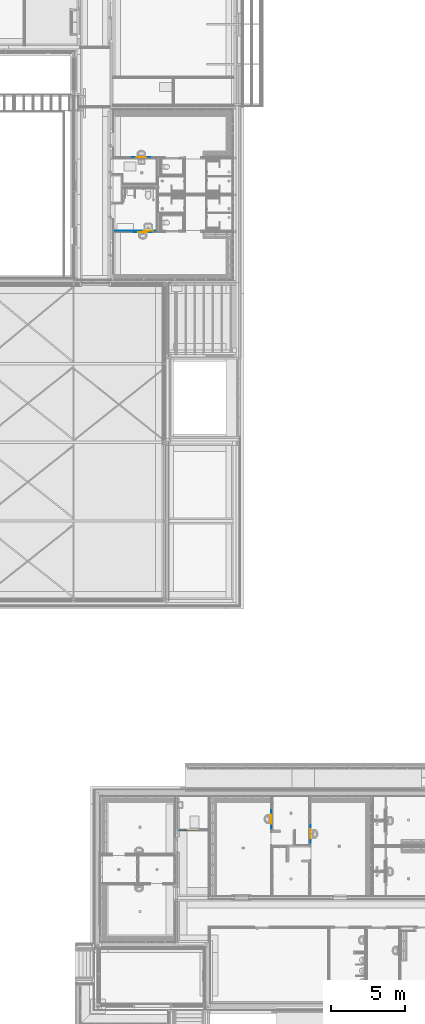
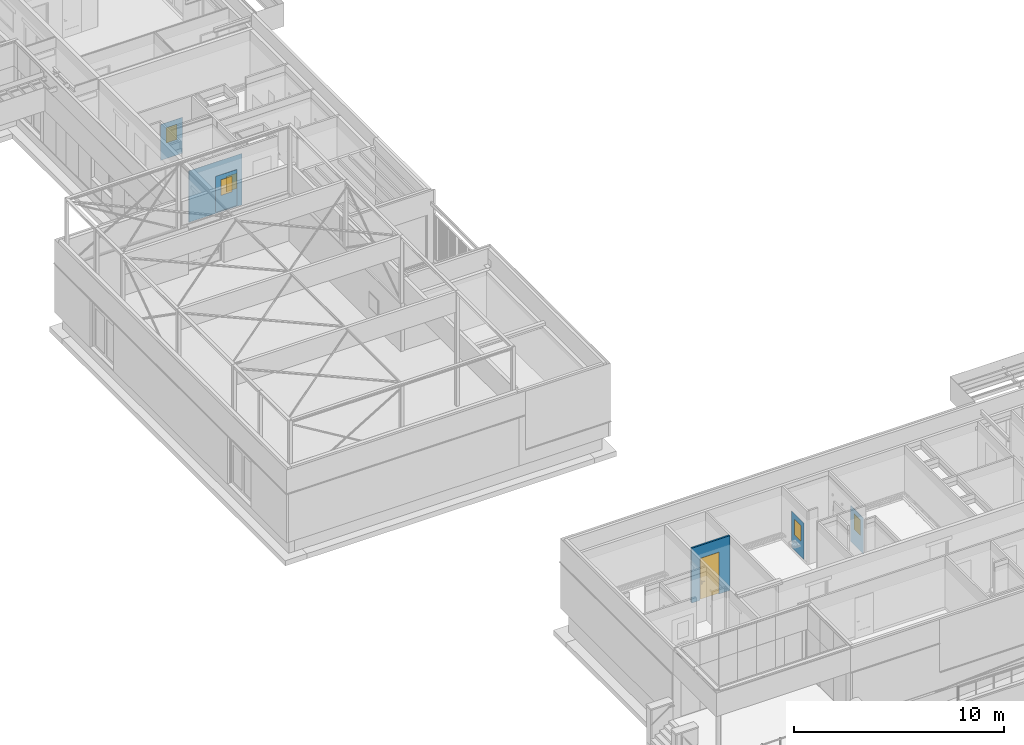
# One storey, part 2 of 788: 6 walls, 5 windows, 1 door, 6 openings.
"""IFC2X3 building model written with IfcOpenShell, lengths in millimetres."""

from ifc_helpers import new_model, entity, si_unit, converted_unit, derived_unit, money_unit, direction, frame, origin_with_axes, place, context, subcontext, project, spatial, faceted_brep, source, transform, mapped, material, type_object, type_shapes, element, fill, save


model = new_model("IFC2X3")

# Units and contexts
model_context = context("Model", 3, precision=0.01, world=origin_with_axes(), true_north=direction((0.0, 1.0)))
plan_context = context("Plan", 3, precision=0.01, world=origin_with_axes(), true_north=direction((0.0, 1.0)))
body_context = subcontext(model_context, "Body", "Model", "MODEL_VIEW")
ifc_project = project(units=[si_unit("LENGTHUNIT", "METRE", prefix="MILLI"), si_unit("AREAUNIT", "SQUARE_METRE"), si_unit("VOLUMEUNIT", "CUBIC_METRE"), converted_unit("PLANEANGLEUNIT", "DEGREE", entity("IfcPlaneAngleMeasure", 0.0174532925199), si_unit("PLANEANGLEUNIT", "RADIAN"), dimensions=[0, 0, 0, 0, 0, 0, 0]), money_unit("EUR"), converted_unit("TIMEUNIT", "Year", entity("IfcTimeMeasure", 31556926.0), si_unit("TIMEUNIT", "SECOND"), dimensions=[0, 0, 1, 0, 0, 0, 0]), si_unit("MASSUNIT", "GRAM", prefix="KILO"), si_unit("THERMODYNAMICTEMPERATUREUNIT", "DEGREE_CELSIUS"), si_unit("LUMINOUSINTENSITYUNIT", "LUMEN"), si_unit("ENERGYUNIT", "JOULE", prefix="MEGA"), derived_unit("THERMALCONDUCTANCEUNIT", [(si_unit("POWERUNIT", "WATT"), 1), (si_unit("LENGTHUNIT", "METRE"), -1), (si_unit("THERMODYNAMICTEMPERATUREUNIT", "KELVIN"), -1)]), derived_unit("SPECIFICHEATCAPACITYUNIT", [(si_unit("ENERGYUNIT", "JOULE"), 1), (si_unit("MASSUNIT", "GRAM", prefix="KILO"), -1), (si_unit("THERMODYNAMICTEMPERATUREUNIT", "KELVIN"), -1)]), derived_unit("MASSDENSITYUNIT", [(si_unit("MASSUNIT", "GRAM", prefix="KILO"), 1), (si_unit("VOLUMEUNIT", "CUBIC_METRE"), -1)])], contexts=[model_context, plan_context])

# Site, building, storey
site_placement = place(None, origin_with_axes())
site = spatial("IfcSite", under=ifc_project, at=site_placement, Name="Site", CompositionType="ELEMENT")
building_placement = place(site_placement, origin_with_axes())
building = spatial("IfcBuilding", under=site, at=building_placement, Name="Naam gebouw", CompositionType="ELEMENT")
storey_placement = place(building_placement, origin_with_axes())
storey = spatial("IfcBuildingStorey", under=building, at=storey_placement, Name="Begane grond", CompositionType="ELEMENT", Elevation=0.0)

# Wall, opening, door
ifc_material_1 = material(Name="Steen - Betonblok C")
wall_type_1 = type_object("IfcWallType", Name="22 Binnenwand NC_betonblok 100mm 100", PredefinedType="ELEMENTEDWALL")
wall_1_placement = place(storey_placement, frame((56886.017911, -46183.9984092, 830.0), z_axis=(0.0, 0.0, 1.0), x_axis=(-1.0, 0.0, 0.0)))
wall_1 = element("IfcWall", 1, at=wall_1_placement, inside=storey, type_object=wall_type_1, material=ifc_material_1, Name="Binnenwand", context=body_context, shape_type="Brep", body=[
    faceted_brep([(1733.99796843, 0.0, 2447.0), (1733.99796843, 0.0, 70.0), (1733.99796843, 0.0, 0.0), (2200.00125457, 0.0, 0.0), (2200.00125457, 0.0, 3190.0), (100.001254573, 0.0, 3190.0), (100.001254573, 0.0, 0.0), (699.997968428, 0.0, 0.0), (699.997968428, 0.0, 70.0), (699.997968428, 0.0, 2447.0), (1733.99796843, 100.0, 2447.0), (1733.99796843, 100.0, 70.0), (1733.99796843, 100.0, 0.0), (2200.00125457, 100.0, 0.0), (2200.00125457, 100.0, 3190.0), (100.001254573, 100.0, 3190.0), (100.001254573, 100.0, 0.0), (699.997968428, 100.0, 0.0), (699.997968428, 100.0, 70.0), (699.997968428, 100.0, 2447.0)], [[[0, 1, 2, 3, 4, 5, 6, 7, 8, 9]], [[1, 0, 10, 11]], [[1, 11, 12, 2]], [[2, 12, 13, 3]], [[14, 4, 3, 13]], [[4, 14, 15, 5]], [[6, 5, 15, 16]], [[17, 7, 6, 16]], [[18, 8, 7, 17]], [[9, 8, 18, 19]], [[0, 9, 19, 10]], [[19, 18, 17, 16, 15, 14, 13, 12, 11, 10]]]),
])
opening_1_placement = place(wall_1_placement, frame((1216.99796843, 0.0, 70.0), z_axis=(0.0, 0.0, 1.0), x_axis=(1.0, 0.0, 0.0)))
opening_1 = element("IfcOpeningElement", 2, at=opening_1_placement, cuts=wall_1, Name="b1.13-sp", context=body_context, shape_type="Brep", body=[
    faceted_brep([(-517.0, -200.0, 0.0), (-517.0, -200.0, 2377.0), (-517.0, 100.0, 2377.0), (-517.0, 100.0, 0.0), (517.0, -200.0, 0.0), (517.0, -200.0, 2377.0), (517.0, 100.0, 2377.0), (517.0, 100.0, 0.0)], [[[0, 1, 2, 3]], [[0, 4, 5, 1]], [[1, 5, 6, 2]], [[3, 2, 6, 7]], [[4, 0, 3, 7]], [[5, 4, 7, 6]]]),
])
door_style = type_object("IfcDoorStyle", Name="D1 25", ConstructionType="NOTDEFINED", OperationType="SINGLE_SWING_LEFT", ParameterTakesPrecedence=False, Sizeable=False)
shared_shape_1 = source(origin_with_axes(), body_context, "Body", "Brep", [
    faceted_brep([(450.0, -40.0, 0.0), (450.0, -114.0, 0.0), (450.0, -114.0, 2310.0), (450.0, -40.0, 2310.0), (467.0, -40.0, 0.0), (467.0, 0.0, 0.0), (517.0, 0.0, 0.0), (517.0, -114.0, 0.0), (517.0, -114.0, 2310.0), (467.0, -40.0, 2310.0), (517.0, 0.0, 2310.0), (467.0, 0.0, 2310.0)], [[[0, 1, 2, 3]], [[4, 5, 6, 7, 1, 0]], [[1, 7, 8, 2]], [[9, 3, 2, 8, 10, 11]], [[9, 4, 0, 3]], [[11, 5, 4, 9]], [[11, 10, 6, 5]], [[6, 10, 8, 7]]]),
    faceted_brep([(-467.0, -40.0, 2310.0), (-467.0, 0.0, 2310.0), (-517.0, 0.0, 2310.0), (-517.0, -114.0, 2310.0), (-450.0, -114.0, 2310.0), (-450.0, -40.0, 2310.0), (-467.0, -40.0, 0.0), (-467.0, 0.0, 0.0), (-517.0, 0.0, 0.0), (-517.0, -114.0, 0.0), (-450.0, -114.0, 0.0), (-450.0, -40.0, 0.0)], [[[0, 1, 2, 3, 4, 5]], [[0, 6, 7, 1]], [[7, 8, 2, 1]], [[2, 8, 9, 3]], [[3, 9, 10, 4]], [[5, 4, 10, 11]], [[5, 11, 6, 0]], [[6, 11, 10, 9, 8, 7]]]),
    faceted_brep([(467.0, 0.0, 2327.0), (-467.0, 0.0, 2327.0), (-467.0, 0.0, 2310.0), (-517.0, 0.0, 2310.0), (-517.0, 0.0, 2377.0), (517.0, 0.0, 2377.0), (517.0, 0.0, 2310.0), (467.0, 0.0, 2310.0), (467.0, -40.0, 2327.0), (-467.0, -40.0, 2327.0), (-467.0, -40.0, 2310.0), (-450.0, -40.0, 2310.0), (-450.0, -114.0, 2310.0), (-517.0, -114.0, 2310.0), (-517.0, -114.0, 2377.0), (517.0, -114.0, 2377.0), (517.0, -114.0, 2310.0), (467.0, -40.0, 2310.0), (450.0, -114.0, 2310.0), (450.0, -40.0, 2310.0)], [[[0, 1, 2, 3, 4, 5, 6, 7]], [[0, 8, 9, 1]], [[1, 9, 10, 2]], [[10, 11, 12, 13, 3, 2]], [[4, 3, 13, 14]], [[5, 4, 14, 15]], [[6, 5, 15, 16]], [[17, 7, 6, 16, 18, 19]], [[7, 17, 8, 0]], [[10, 9, 8, 17, 19, 11]], [[19, 18, 12, 11]], [[12, 18, 16, 15, 14, 13]]]),
    faceted_brep([(421.702282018, -80.0, 1006.47213595), (421.702282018, -60.0, 1006.47213595), (417.0, -60.0, 1008.0), (417.0, -80.0, 1008.0), (424.60845213, -80.0, 1002.47213595), (424.60845213, -60.0, 1002.47213595), (422.877852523, -58.0, 1008.09016994), (417.0, -58.0, 1010.0), (412.297717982, -60.0, 1006.47213595), (412.297717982, -80.0, 1006.47213595), (409.39154787, -80.0, 1002.47213595), (409.39154787, -80.0, 997.527864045), (412.297717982, -80.0, 993.527864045), (417.0, -80.0, 992.0), (421.702282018, -80.0, 993.527864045), (424.60845213, -80.0, 997.527864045), (424.60845213, -60.0, 997.527864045), (426.510565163, -58.0, 1003.09016994), (422.877852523, -50.0, 1008.09016994), (417.0, -50.0, 1010.0), (411.122147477, -58.0, 1008.09016994), (409.39154787, -60.0, 1002.47213595), (409.39154787, -60.0, 997.527864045), (412.297717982, -60.0, 993.527864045), (417.0, -60.0, 992.0), (421.702282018, -60.0, 993.527864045), (426.510565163, -58.0, 996.909830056), (426.510565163, -50.0, 1003.09016994), (426.510565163, -50.0, 996.909830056), (422.877852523, -50.0, 991.909830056), (417.0, -50.0, 990.0), (411.122147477, -50.0, 991.909830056), (407.489434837, -50.0, 996.909830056), (407.489434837, -50.0, 1003.09016994), (411.122147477, -50.0, 1008.09016994), (407.489434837, -58.0, 1003.09016994), (407.489434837, -58.0, 996.909830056), (411.122147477, -58.0, 991.909830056), (417.0, -58.0, 990.0), (422.877852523, -58.0, 991.909830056)], [[[0, 1, 2, 3]], [[4, 5, 1, 0]], [[1, 6, 7, 2]], [[3, 2, 8, 9]], [[3, 9, 10, 11, 12, 13, 14, 15, 4, 0]], [[15, 16, 5, 4]], [[5, 17, 6, 1]], [[6, 18, 19, 7]], [[2, 7, 20, 8]], [[9, 8, 21, 10]], [[10, 21, 22, 11]], [[11, 22, 23, 12]], [[12, 23, 24, 13]], [[13, 24, 25, 14]], [[14, 25, 16, 15]], [[16, 26, 17, 5]], [[17, 27, 18, 6]], [[19, 18, 27, 28, 29, 30, 31, 32, 33, 34]], [[7, 19, 34, 20]], [[8, 20, 35, 21]], [[21, 35, 36, 22]], [[22, 36, 37, 23]], [[23, 37, 38, 24]], [[24, 38, 39, 25]], [[25, 39, 26, 16]], [[26, 28, 27, 17]], [[39, 29, 28, 26]], [[38, 30, 29, 39]], [[37, 31, 30, 38]], [[36, 32, 31, 37]], [[35, 33, 32, 36]], [[20, 34, 33, 35]]]),
    faceted_brep([(404.811616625, -50.0, 1067.59695641), (400.2, -50.0, 1060.0), (394.5, -50.0, 1060.0), (394.5, -50.0, 840.0), (400.2, -50.0, 840.0), (404.811616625, -50.0, 832.403043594), (412.556444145, -50.0, 828.044328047), (421.443555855, -50.0, 828.044328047), (429.188383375, -50.0, 832.403043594), (433.8, -50.0, 840.0), (439.5, -50.0, 840.0), (439.5, -50.0, 1060.0), (433.8, -50.0, 1060.0), (429.188383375, -50.0, 1067.59695641), (421.443555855, -50.0, 1071.95567195), (412.556444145, -50.0, 1071.95567195), (417.0, -50.0, 917.425445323), (422.375182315, -50.0, 915.143815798), (424.467830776, -50.0, 909.692280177), (422.0, -50.0, 904.4), (422.0, -50.0, 887.5), (420.535533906, -50.0, 883.964466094), (417.0, -50.0, 882.5), (413.464466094, -50.0, 883.964466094), (412.0, -50.0, 887.5), (412.0, -50.0, 904.4), (409.532169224, -50.0, 909.692280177), (411.624817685, -50.0, 915.143815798), (404.811616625, -40.0, 1067.59695641), (400.2, -40.0, 1060.0), (394.5, -40.0, 1060.0), (394.5, -40.0, 840.0), (400.2, -40.0, 840.0), (404.811616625, -40.0, 832.403043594), (412.556444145, -40.0, 828.044328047), (421.443555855, -40.0, 828.044328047), (429.188383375, -40.0, 832.403043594), (433.8, -40.0, 840.0), (439.5, -40.0, 840.0), (439.5, -40.0, 1060.0), (433.8, -40.0, 1060.0), (429.188383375, -40.0, 1067.59695641), (421.443555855, -40.0, 1071.95567195), (412.556444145, -40.0, 1071.95567195), (417.0, -40.0, 917.425445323), (422.375182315, -40.0, 915.143815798), (424.467830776, -40.0, 909.692280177), (422.0, -40.0, 904.4), (422.0, -40.0, 887.5), (420.535533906, -40.0, 883.964466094), (417.0, -40.0, 882.5), (413.464466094, -40.0, 883.964466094), (412.0, -40.0, 887.5), (412.0, -40.0, 904.4), (409.532169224, -40.0, 909.692280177), (411.624817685, -40.0, 915.143815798)], [[[0, 1, 2, 3, 4, 5, 6, 7, 8, 9, 10, 11, 12, 13, 14, 15], [16, 17, 18, 19, 20, 21, 22, 23, 24, 25, 26, 27]], [[0, 28, 29, 1]], [[1, 29, 30, 2]], [[2, 30, 31, 3]], [[3, 31, 32, 4]], [[4, 32, 33, 5]], [[5, 33, 34, 6]], [[6, 34, 35, 7]], [[7, 35, 36, 8]], [[8, 36, 37, 9]], [[9, 37, 38, 10]], [[10, 38, 39, 11]], [[11, 39, 40, 12]], [[12, 40, 41, 13]], [[13, 41, 42, 14]], [[14, 42, 43, 15]], [[15, 43, 28, 0]], [[16, 44, 45, 17]], [[17, 45, 46, 18]], [[18, 46, 47, 19]], [[47, 48, 20, 19]], [[21, 20, 48, 49]], [[22, 21, 49, 50]], [[23, 22, 50, 51]], [[24, 23, 51, 52]], [[25, 24, 52, 53]], [[25, 53, 54, 26]], [[26, 54, 55, 27]], [[27, 55, 44, 16]], [[32, 31, 30, 29, 28, 43, 42, 41, 40, 39, 38, 37, 36, 35, 34, 33], [46, 45, 44, 55, 54, 53, 52, 51, 50, 49, 48, 47]]]),
    faceted_brep([(302.747, -80.0, 1007.158), (302.745508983, -80.0, 1007.19388416), (302.745508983, -95.0, 1007.19388416), (302.747, -95.0, 1007.158), (329.774630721, -80.0, 1014.32652034), (357.602743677, -80.0, 1017.06086405), (385.508740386, -80.0, 1015.29002982), (412.768, -80.0, 1009.06), (419.170575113, -80.0, 1009.76125134), (424.672633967, -80.0, 1006.41280843), (426.991512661, -80.0, 1000.40385485), (425.165167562, -80.0, 994.227352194), (419.951302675, -80.0, 990.445773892), (413.513017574, -80.0, 990.628000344), (408.521392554, -80.0, 994.698430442), (408.542, -80.0, 994.666), (383.253286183, -80.0, 1000.19878945), (357.410818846, -80.0, 1001.71460194), (331.648684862, -80.0, 999.176244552), (306.599, -80.0, 992.646), (301.055815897, -80.0, 993.568490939), (297.69427449, -80.0, 998.071591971), (298.385844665, -80.0, 1003.64829442), (298.385844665, -95.0, 1003.64829442), (297.69427449, -95.0, 998.071591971), (301.055815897, -95.0, 993.568490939), (306.599, -95.0, 992.646), (331.648684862, -95.0, 999.176244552), (357.410818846, -95.0, 1001.71460194), (383.253286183, -95.0, 1000.19878945), (408.542, -95.0, 994.666), (408.521392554, -95.0, 994.698430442), (413.513017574, -95.0, 990.628000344), (419.951302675, -95.0, 990.445773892), (425.165167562, -95.0, 994.227352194), (426.991512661, -95.0, 1000.40385485), (424.672633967, -95.0, 1006.41280843), (419.170575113, -95.0, 1009.76125134), (412.768, -95.0, 1009.06), (385.508740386, -95.0, 1015.29002982), (357.602743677, -95.0, 1017.06086405), (329.774630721, -95.0, 1014.32652034)], [[[0, 1, 2, 3]], [[0, 4, 5, 6, 7, 8, 9, 10, 11, 12, 13, 14, 15, 16, 17, 18, 19, 20, 21, 22, 1]], [[1, 22, 23, 2]], [[3, 2, 23, 24, 25, 26, 27, 28, 29, 30, 31, 32, 33, 34, 35, 36, 37, 38, 39, 40, 41]], [[4, 0, 3, 41]], [[5, 4, 41, 40]], [[6, 5, 40, 39]], [[7, 6, 39, 38]], [[8, 7, 38, 37]], [[9, 8, 37, 36]], [[10, 9, 36, 35]], [[11, 10, 35, 34]], [[12, 11, 34, 33]], [[13, 12, 33, 32]], [[14, 13, 32, 31]], [[15, 14, 31, 30]], [[16, 15, 30, 29]], [[17, 16, 29, 28]], [[18, 17, 28, 27]], [[19, 18, 27, 26]], [[20, 19, 26, 25]], [[21, 20, 25, 24]], [[22, 21, 24, 23]]]),
    faceted_brep([(421.702282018, 40.0, 1006.47213595), (417.0, 40.0, 1008.0), (417.0, 20.0, 1008.0), (421.702282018, 20.0, 1006.47213595), (424.60845213, 40.0, 1002.47213595), (424.60845213, 40.0, 997.527864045), (421.702282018, 40.0, 993.527864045), (417.0, 40.0, 992.0), (412.297717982, 40.0, 993.527864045), (409.39154787, 40.0, 997.527864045), (409.39154787, 40.0, 1002.47213595), (412.297717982, 40.0, 1006.47213595), (412.297717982, 20.0, 1006.47213595), (417.0, 18.0, 1010.0), (422.877852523, 18.0, 1008.09016994), (424.60845213, 20.0, 1002.47213595), (424.60845213, 20.0, 997.527864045), (421.702282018, 20.0, 993.527864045), (417.0, 20.0, 992.0), (412.297717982, 20.0, 993.527864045), (409.39154787, 20.0, 997.527864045), (409.39154787, 20.0, 1002.47213595), (411.122147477, 18.0, 1008.09016994), (417.0, 10.0, 1010.0), (422.877852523, 10.0, 1008.09016994), (426.510565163, 18.0, 1003.09016994), (426.510565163, 18.0, 996.909830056), (422.877852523, 18.0, 991.909830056), (417.0, 18.0, 990.0), (411.122147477, 18.0, 991.909830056), (407.489434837, 18.0, 996.909830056), (407.489434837, 18.0, 1003.09016994), (411.122147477, 10.0, 1008.09016994), (407.489434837, 10.0, 1003.09016994), (407.489434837, 10.0, 996.909830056), (411.122147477, 10.0, 991.909830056), (417.0, 10.0, 990.0), (422.877852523, 10.0, 991.909830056), (426.510565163, 10.0, 996.909830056), (426.510565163, 10.0, 1003.09016994)], [[[0, 1, 2, 3]], [[1, 0, 4, 5, 6, 7, 8, 9, 10, 11]], [[1, 11, 12, 2]], [[3, 2, 13, 14]], [[4, 0, 3, 15]], [[5, 4, 15, 16]], [[6, 5, 16, 17]], [[7, 6, 17, 18]], [[8, 7, 18, 19]], [[9, 8, 19, 20]], [[10, 9, 20, 21]], [[11, 10, 21, 12]], [[2, 12, 22, 13]], [[14, 13, 23, 24]], [[15, 3, 14, 25]], [[16, 15, 25, 26]], [[17, 16, 26, 27]], [[18, 17, 27, 28]], [[19, 18, 28, 29]], [[20, 19, 29, 30]], [[21, 20, 30, 31]], [[12, 21, 31, 22]], [[13, 22, 32, 23]], [[23, 32, 33, 34, 35, 36, 37, 38, 39, 24]], [[25, 14, 24, 39]], [[26, 25, 39, 38]], [[27, 26, 38, 37]], [[28, 27, 37, 36]], [[29, 28, 36, 35]], [[30, 29, 35, 34]], [[31, 30, 34, 33]], [[22, 31, 33, 32]]]),
    faceted_brep([(404.811616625, 0.0, 1067.59695641), (400.2, 0.0, 1060.0), (394.5, 0.0, 1060.0), (394.5, 0.0, 840.0), (400.2, 0.0, 840.0), (404.811616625, 0.0, 832.403043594), (412.556444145, 0.0, 828.044328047), (421.443555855, 0.0, 828.044328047), (429.188383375, 0.0, 832.403043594), (433.8, 0.0, 840.0), (439.5, 0.0, 840.0), (439.5, 0.0, 1060.0), (433.8, 0.0, 1060.0), (429.188383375, 0.0, 1067.59695641), (421.443555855, 0.0, 1071.95567195), (412.556444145, 0.0, 1071.95567195), (417.0, 0.0, 917.425445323), (422.375182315, 0.0, 915.143815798), (424.467830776, 0.0, 909.692280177), (422.0, 0.0, 904.4), (422.0, 0.0, 887.5), (420.535533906, 0.0, 883.964466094), (417.0, 0.0, 882.5), (413.464466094, 0.0, 883.964466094), (412.0, 0.0, 887.5), (412.0, 0.0, 904.4), (409.532169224, 0.0, 909.692280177), (411.624817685, 0.0, 915.143815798), (404.811616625, 10.0, 1067.59695641), (400.2, 10.0, 1060.0), (394.5, 10.0, 1060.0), (394.5, 10.0, 840.0), (400.2, 10.0, 840.0), (404.811616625, 10.0, 832.403043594), (412.556444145, 10.0, 828.044328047), (421.443555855, 10.0, 828.044328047), (429.188383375, 10.0, 832.403043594), (433.8, 10.0, 840.0), (439.5, 10.0, 840.0), (439.5, 10.0, 1060.0), (433.8, 10.0, 1060.0), (429.188383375, 10.0, 1067.59695641), (421.443555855, 10.0, 1071.95567195), (412.556444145, 10.0, 1071.95567195), (417.0, 10.0, 917.425445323), (422.375182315, 10.0, 915.143815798), (424.467830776, 10.0, 909.692280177), (422.0, 10.0, 904.4), (422.0, 10.0, 887.5), (420.535533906, 10.0, 883.964466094), (417.0, 10.0, 882.5), (413.464466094, 10.0, 883.964466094), (412.0, 10.0, 887.5), (412.0, 10.0, 904.4), (409.532169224, 10.0, 909.692280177), (411.624817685, 10.0, 915.143815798)], [[[0, 1, 2, 3, 4, 5, 6, 7, 8, 9, 10, 11, 12, 13, 14, 15], [16, 17, 18, 19, 20, 21, 22, 23, 24, 25, 26, 27]], [[28, 29, 1, 0]], [[29, 30, 2, 1]], [[30, 31, 3, 2]], [[31, 32, 4, 3]], [[32, 33, 5, 4]], [[33, 34, 6, 5]], [[34, 35, 7, 6]], [[35, 36, 8, 7]], [[36, 37, 9, 8]], [[37, 38, 10, 9]], [[38, 39, 11, 10]], [[39, 40, 12, 11]], [[40, 41, 13, 12]], [[41, 42, 14, 13]], [[42, 43, 15, 14]], [[43, 28, 0, 15]], [[16, 44, 45, 17]], [[17, 45, 46, 18]], [[18, 46, 47, 19]], [[47, 48, 20, 19]], [[21, 20, 48, 49]], [[22, 21, 49, 50]], [[23, 22, 50, 51]], [[24, 23, 51, 52]], [[25, 24, 52, 53]], [[25, 53, 54, 26]], [[26, 54, 55, 27]], [[27, 55, 44, 16]], [[32, 31, 30, 29, 28, 43, 42, 41, 40, 39, 38, 37, 36, 35, 34, 33], [46, 45, 44, 55, 54, 53, 52, 51, 50, 49, 48, 47]]]),
    faceted_brep([(302.747, 40.0, 1007.158), (302.747, 55.0, 1007.158), (302.745508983, 55.0, 1007.19388416), (302.745508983, 40.0, 1007.19388416), (329.774630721, 40.0, 1014.32652034), (329.774630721, 55.0, 1014.32652034), (357.602743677, 55.0, 1017.06086405), (385.508740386, 55.0, 1015.29002982), (412.768, 55.0, 1009.06), (419.170575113, 55.0, 1009.76125134), (424.672633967, 55.0, 1006.41280843), (426.991512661, 55.0, 1000.40385485), (425.165167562, 55.0, 994.227352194), (419.951302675, 55.0, 990.445773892), (413.513017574, 55.0, 990.628000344), (408.521392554, 55.0, 994.698430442), (408.542, 55.0, 994.666), (383.253286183, 55.0, 1000.19878945), (357.410818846, 55.0, 1001.71460194), (331.648684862, 55.0, 999.176244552), (306.599, 55.0, 992.646), (301.055815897, 55.0, 993.568490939), (297.69427449, 55.0, 998.071591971), (298.385844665, 55.0, 1003.64829442), (298.385844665, 40.0, 1003.64829442), (297.69427449, 40.0, 998.071591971), (301.055815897, 40.0, 993.568490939), (306.599, 40.0, 992.646), (331.648684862, 40.0, 999.176244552), (357.410818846, 40.0, 1001.71460194), (383.253286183, 40.0, 1000.19878945), (408.542, 40.0, 994.666), (408.521392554, 40.0, 994.698430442), (413.513017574, 40.0, 990.628000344), (419.951302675, 40.0, 990.445773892), (425.165167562, 40.0, 994.227352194), (426.991512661, 40.0, 1000.40385485), (424.672633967, 40.0, 1006.41280843), (419.170575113, 40.0, 1009.76125134), (412.768, 40.0, 1009.06), (385.508740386, 40.0, 1015.29002982), (357.602743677, 40.0, 1017.06086405)], [[[0, 1, 2, 3]], [[4, 5, 1, 0]], [[1, 5, 6, 7, 8, 9, 10, 11, 12, 13, 14, 15, 16, 17, 18, 19, 20, 21, 22, 23, 2]], [[3, 2, 23, 24]], [[0, 3, 24, 25, 26, 27, 28, 29, 30, 31, 32, 33, 34, 35, 36, 37, 38, 39, 40, 41, 4]], [[41, 6, 5, 4]], [[40, 7, 6, 41]], [[39, 8, 7, 40]], [[38, 9, 8, 39]], [[37, 10, 9, 38]], [[36, 11, 10, 37]], [[35, 12, 11, 36]], [[34, 13, 12, 35]], [[33, 14, 13, 34]], [[32, 15, 14, 33]], [[31, 16, 15, 32]], [[30, 17, 16, 31]], [[29, 18, 17, 30]], [[28, 19, 18, 29]], [[27, 20, 19, 28]], [[26, 21, 20, 27]], [[25, 22, 21, 26]], [[24, 23, 22, 25]]]),
    faceted_brep([(-467.0, 0.0, 0.0), (467.0, 0.0, 0.0), (467.0, -40.0, 0.0), (-467.0, -40.0, 0.0), (-467.0, 0.0, 2327.0), (467.0, 0.0, 2327.0), (467.0, -40.0, 2327.0), (-467.0, -40.0, 2327.0)], [[[0, 1, 2, 3]], [[0, 4, 5, 1]], [[1, 5, 6, 2]], [[3, 2, 6, 7]], [[4, 0, 3, 7]], [[5, 4, 7, 6]]]),
])
type_shapes(door_style, [shared_shape_1])
door_placement = place(opening_1_placement, frame((-517.0, 0.0, 0.0), z_axis=(0.0, 0.0, 1.0), x_axis=(1.0, 0.0, 0.0)))
door = element("IfcDoor", 3, at=door_placement, inside=storey, type_object=door_style, Name="b1.13-sp", ObjectType="DOOR", OverallHeight=2377.0, OverallWidth=1034.0, context=body_context, shape_type="MappedRepresentation", body=[
    mapped(shared_shape_1, transform((517.0, 114.0, 0.0))),
])
fill(opening_1, door)

# Wall, opening, window
ifc_material_2 = material(Name="AFW - Wandtegelwerk")
wall_type_2 = type_object("IfcWallType", Name="AFW - Wandtegelwerk 5", PredefinedType="ELEMENTEDWALL")
wall_2_placement = place(storey_placement, frame((52840.4444844, -932.003571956, 150.0), z_axis=(0.0, 0.0, 1.0), x_axis=(-1.0, 0.0, 0.0)))
wall_2 = element("IfcWall", 4, at=wall_2_placement, inside=storey, type_object=wall_type_2, material=ifc_material_2, Name="Wandtegelwerk", context=body_context, shape_type="Brep", body=[
    faceted_brep([(0.0, 5.0, 0.0), (1200.0, 5.0, 0.0), (1200.0, 0.0, 0.0), (0.0, 0.0, 0.0), (0.0, 5.0, 2100.0), (1200.0, 5.0, 2100.0), (1200.0, 0.0, 2100.0), (0.0, 0.0, 2100.0)], [[[0, 1, 2, 3]], [[4, 5, 1, 0]], [[2, 1, 5, 6]], [[3, 2, 6, 7]], [[4, 0, 3, 7]], [[7, 6, 5, 4]]]),
])
opening_2_placement = place(wall_2_placement, frame((600.0, 0.0, 900.0), z_axis=(0.0, 0.0, 1.0), x_axis=(1.0, 0.0, 0.0)))
opening_2 = element("IfcOpeningElement", 5, at=opening_2_placement, cuts=wall_2, Name="nis tbv luifel", context=body_context, shape_type="Brep", body=[
    faceted_brep([(0.0, -1015.0, 10.0), (-10.0, -1005.0, 10.0), (-10.0, -1005.0, 0.0), (0.0, -1015.0, 0.0), (10.0, -1005.0, 10.0), (10.0, -1005.0, 0.0)], [[[0, 1, 2, 3]], [[0, 4, 1]], [[1, 4, 5, 2]], [[3, 2, 5]], [[4, 0, 3, 5]]]),
])
window_style = type_object("IfcWindowStyle", Name="R Uitstulping 25", ConstructionType="NOTDEFINED", OperationType="NOTDEFINED", ParameterTakesPrecedence=False, Sizeable=False)
shared_shape_2 = source(origin_with_axes(), body_context, "Body", "Brep", [
    faceted_brep([(300.0, 0.0, 0.0), (300.0, 0.0, 900.0), (-300.0, 0.0, 900.0), (-300.0, 0.0, 0.0), (300.0, 5.0, 0.0), (300.0, 5.0, 900.0), (-300.0, 5.0, 900.0), (-300.0, 5.0, 0.0)], [[[0, 1, 2, 3]], [[4, 5, 1, 0]], [[1, 5, 6, 2]], [[3, 2, 6, 7]], [[0, 3, 7, 4]], [[7, 6, 5, 4]]]),
])
window_1_placement = place(opening_2_placement, frame((300.0, 0.0, 0.0), z_axis=(0.0, 0.0, 1.0), x_axis=(-1.0, 0.0, 0.0)))
window_1 = element("IfcWindow", 6, at=window_1_placement, inside=storey, type_object=window_style, material=ifc_material_2, Name="nis tbv luifel", ObjectType="WINDOW", OverallHeight=900.0, OverallWidth=600.0, context=body_context, shape_type="MappedRepresentation", body=[
    mapped(shared_shape_2, transform((300.0, 0.0, 0.0))),
])
fill(opening_2, window_1)

wall_3_placement = place(storey_placement, frame((52940.4444844, -5988.00356408, 150.0), z_axis=(0.0, 0.0, 1.0), x_axis=(-1.0, 0.0, 0.0)))
wall_3 = element("IfcWall", 7, at=wall_3_placement, inside=storey, type_object=wall_type_2, material=ifc_material_2, Name="Wandtegelwerk", context=body_context, shape_type="Brep", body=[
    faceted_brep([(0.0, -5.0, 2100.0), (1200.0, -5.0, 2100.0), (1200.0, 0.0, 2100.0), (0.0, 0.0, 2100.0), (0.0, -5.0, 0.0), (1200.0, -5.0, 0.0), (1200.0, 0.0, 0.0), (0.0, 0.0, 0.0)], [[[0, 1, 2, 3]], [[4, 5, 1, 0]], [[2, 1, 5, 6]], [[3, 2, 6, 7]], [[4, 0, 3, 7]], [[7, 6, 5, 4]]]),
])
opening_3_placement = place(wall_3_placement, frame((600.0, 0.0, 900.0), z_axis=(0.0, 0.0, 1.0), x_axis=(1.0, 0.0, 0.0)))
opening_3 = element("IfcOpeningElement", 8, at=opening_3_placement, cuts=wall_3, Name="nis tbv luifel", context=body_context, shape_type="Brep", body=[
    faceted_brep([(0.0, 1015.0, 0.0), (-10.0, 1005.0, 0.0), (-10.0, 1005.0, 10.0), (0.0, 1015.0, 10.0), (10.0, 1005.0, 0.0), (10.0, 1005.0, 10.0)], [[[0, 1, 2, 3]], [[0, 4, 1]], [[1, 4, 5, 2]], [[3, 2, 5]], [[4, 0, 3, 5]]]),
])
shared_shape_3 = source(origin_with_axes(), body_context, "Body", "Brep", [
    faceted_brep([(-300.0, 0.0, 0.0), (300.0, 0.0, 0.0), (300.0, 0.0, 900.0), (-300.0, 0.0, 900.0), (-300.0, 5.0, 0.0), (300.0, 5.0, 0.0), (300.0, 5.0, 900.0), (-300.0, 5.0, 900.0)], [[[0, 1, 2, 3]], [[0, 4, 5, 1]], [[1, 5, 6, 2]], [[3, 2, 6, 7]], [[4, 0, 3, 7]], [[5, 4, 7, 6]]]),
])
type_shapes(window_style, [shared_shape_3, shared_shape_2])
window_2_placement = place(opening_3_placement, frame((-300.0, 0.0, 0.0), z_axis=(0.0, 0.0, 1.0), x_axis=(1.0, 0.0, 0.0)))
window_2 = element("IfcWindow", 9, at=window_2_placement, inside=storey, type_object=window_style, material=ifc_material_2, Name="nis tbv luifel", ObjectType="WINDOW", OverallHeight=900.0, OverallWidth=600.0, context=body_context, shape_type="MappedRepresentation", body=[
    mapped(shared_shape_3, transform((300.0, 0.0, 0.0))),
])
fill(opening_3, window_2)

wall_4_placement = place(storey_placement, frame((63664.0137992, -45903.9652068, 1050.0), z_axis=(0.0, 0.0, 1.0), x_axis=(-1.18031214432e-09, -1.0, 0.0)))
wall_4 = element("IfcWall", 10, at=wall_4_placement, inside=storey, type_object=wall_type_2, material=ifc_material_2, Name="Wandtegelwerk", context=body_context, shape_type="Brep", body=[
    faceted_brep([(5.90461013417e-09, -5.0, 2100.0), (1200.00000001, -4.99999858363, 2100.0), (1200.0, 1.41637457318e-06, 2100.0), (0.0, 0.0, 2100.0), (5.90461013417e-09, -5.0, 0.0), (1200.00000001, -4.99999858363, 0.0), (1200.0, 1.41637457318e-06, 0.0), (0.0, 0.0, 0.0)], [[[0, 1, 2, 3]], [[4, 5, 1, 0]], [[2, 1, 5, 6]], [[3, 2, 6, 7]], [[4, 0, 3, 7]], [[7, 6, 5, 4]]]),
])
opening_4_placement = place(wall_4_placement, frame((600.000000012, 0.0, 900.0), z_axis=(0.0, 0.0, 1.0), x_axis=(1.0, 0.0, 0.0)))
opening_4 = element("IfcOpeningElement", 11, at=opening_4_placement, cuts=wall_4, Name="nis tbv luifel", context=body_context, shape_type="Brep", body=[
    faceted_brep([(-1.203921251e-06, 1015.00000071, 0.0), (-10.0000011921, 1005.0000007, 0.0), (-10.0000011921, 1005.0000007, 10.0), (-1.203921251e-06, 1015.00000071, 10.0), (9.99999880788, 1005.00000072, 0.0), (9.99999880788, 1005.00000072, 10.0)], [[[0, 1, 2, 3]], [[0, 4, 1]], [[1, 4, 5, 2]], [[3, 2, 5]], [[4, 0, 3, 5]]]),
])
window_3_placement = place(opening_4_placement, frame((-300.0, 0.0, 0.0), z_axis=(0.0, 0.0, 1.0), x_axis=(1.0, 0.0, 0.0)))
window_3 = element("IfcWindow", 12, at=window_3_placement, inside=storey, type_object=window_style, material=ifc_material_2, Name="nis tbv luifel", ObjectType="WINDOW", OverallHeight=900.0, OverallWidth=600.0, context=body_context, shape_type="MappedRepresentation", body=[
    mapped(shared_shape_3, transform((299.999999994, 7.08190839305e-07, 0.0))),
])
fill(opening_4, window_3)

wall_5_placement = place(storey_placement, frame((60978.0169498, -44903.9652068, 1050.0), z_axis=(0.0, 0.0, 1.0), x_axis=(-1.18031214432e-09, -1.0, 0.0)))
wall_5 = element("IfcWall", 13, at=wall_5_placement, inside=storey, type_object=wall_type_2, material=ifc_material_2, Name="Wandtegelwerk", context=body_context, shape_type="Brep", body=[
    faceted_brep([(-5.90461013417e-09, 5.0, 0.0), (1199.99999999, 5.00000141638, 0.0), (1200.0, 1.41637457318e-06, 0.0), (0.0, 0.0, 0.0), (-5.90461013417e-09, 5.0, 2100.0), (1199.99999999, 5.00000141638, 2100.0), (1200.0, 1.41637457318e-06, 2100.0), (0.0, 0.0, 2100.0)], [[[0, 1, 2, 3]], [[4, 5, 1, 0]], [[2, 1, 5, 6]], [[3, 2, 6, 7]], [[4, 0, 3, 7]], [[7, 6, 5, 4]]]),
])
opening_5_placement = place(wall_5_placement, frame((600.000000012, 0.0, 900.0), z_axis=(0.0, 0.0, 1.0), x_axis=(1.0, 0.0, 0.0)))
opening_5 = element("IfcOpeningElement", 14, at=opening_5_placement, cuts=wall_5, Name="nis tbv luifel", context=body_context, shape_type="Brep", body=[
    faceted_brep([(1.19801651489e-06, -1014.99999929, 0.0), (10.0000011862, -1004.99999928, 0.0), (10.0000011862, -1004.99999928, 10.0), (1.19801651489e-06, -1014.99999929, 10.0), (-9.99999881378, -1004.9999993, 0.0), (-9.99999881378, -1004.9999993, 10.0)], [[[0, 1, 2, 3]], [[0, 4, 1]], [[1, 4, 5, 2]], [[3, 2, 5]], [[4, 0, 3, 5]]]),
])
window_4_placement = place(opening_5_placement, frame((300.0, 0.0, 0.0), z_axis=(0.0, 0.0, 1.0), x_axis=(-1.0, 0.0, 0.0)))
window_4 = element("IfcWindow", 15, at=window_4_placement, inside=storey, type_object=window_style, material=ifc_material_2, Name="nis tbv luifel", ObjectType="WINDOW", OverallHeight=900.0, OverallWidth=600.0, context=body_context, shape_type="MappedRepresentation", body=[
    mapped(shared_shape_3, transform((300.0, -7.08183733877e-07, 0.0))),
])
fill(opening_5, window_4)

wall_6_placement = place(storey_placement, frame((50342.0380848, -5872.00356408, 0.0), z_axis=(0.0, 0.0, 1.0), x_axis=(1.0, 0.0, 0.0)))
wall_6 = element("IfcWall", 16, at=wall_6_placement, inside=storey, type_object=wall_type_2, material=ifc_material_2, Name="Wandtegelwerk", context=body_context, shape_type="Brep", body=[
    faceted_brep([(2934.9798361, -5.0, 3000.0), (2934.9798361, 0.0, 3000.0), (-5.0, 0.0, 3000.0), (-5.0, -5.0, 3000.0), (2934.9798361, -5.0, 0.0), (2934.9798361, 0.0, 0.0), (-5.0, 0.0, 0.0), (-5.0, -5.0, 0.0)], [[[0, 1, 2, 3]], [[1, 0, 4, 5]], [[1, 5, 6, 2]], [[7, 3, 2, 6]], [[4, 0, 3, 7]], [[5, 4, 7, 6]]]),
])
opening_6_placement = place(wall_6_placement, frame((2362.9798361, 0.0, 1050.0), z_axis=(0.0, 0.0, 1.0), x_axis=(1.0, 0.0, 0.0)))
opening_6 = element("IfcOpeningElement", 17, at=opening_6_placement, cuts=wall_6, Name="nis tbv luifel", context=body_context, shape_type="Brep", body=[
    faceted_brep([(0.0, 1015.0, 10.0), (10.0, 1005.0, 10.0), (10.0, 1005.0, 0.0), (0.0, 1015.0, 0.0), (-10.0, 1005.0, 10.0), (-10.0, 1005.0, 0.0)], [[[0, 1, 2, 3]], [[0, 4, 1]], [[1, 4, 5, 2]], [[3, 2, 5]], [[4, 0, 3, 5]]]),
])
window_5_placement = place(opening_6_placement, frame((-300.0, 0.0, 0.0), z_axis=(0.0, 0.0, 1.0), x_axis=(1.0, 0.0, 0.0)))
window_5 = element("IfcWindow", 18, at=window_5_placement, inside=storey, type_object=window_style, material=ifc_material_2, Name="nis tbv luifel", ObjectType="WINDOW", OverallHeight=900.0, OverallWidth=600.0, context=body_context, shape_type="MappedRepresentation", body=[
    mapped(shared_shape_2, transform((300.0, 0.0, 0.0))),
])
fill(opening_6, window_5)

save(model, "model.ifc")
